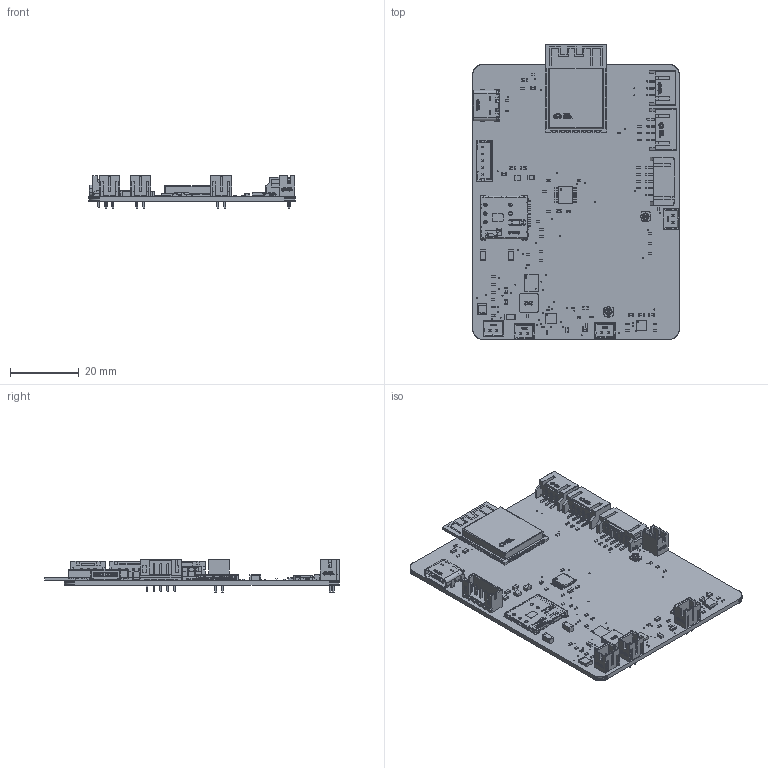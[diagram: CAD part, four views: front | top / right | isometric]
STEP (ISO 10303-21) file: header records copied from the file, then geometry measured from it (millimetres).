
FILE_DESCRIPTION(/* description */ (''),/* implementation_level */ '2;1');
FILE_NAME(/* name */ 'C28_R2_REF_PCB_fb5acde7_SHA30578154.step',/* time_stamp */ '2026-09-15T15:46:44-07:00',/* author */ (''),/* organization */ (''),/* preprocessor_version */ 'ST-DEVELOPER v20.1',/* originating_system */ 'Autodesk Translation Framework v15.8.0.0',/* authorisation */ '');
FILE_SCHEMA (('AUTOMOTIVE_DESIGN { 1 0 10303 214 3 1 1 }'));
Products named in the file (54): 2026-09-15-15-46-40-457; 2026-09-15-15-46-40-471; 2026-09-15-15-46-40-457_1; 2026-09-15-15-46-40-457_2; 2026-09-15-15-46-40-464; 2026-09-15-15-46-40-463; 2026-09-15-15-46-40-457_3; 2026-09-15-15-46-40-457_4; 2026-09-15-15-46-40-458; 2026-09-15-15-46-40-457_5; 2026-09-15-15-46-40-458_1; 2026-09-15-15-46-40-458_2; 2026-09-15-15-46-40-469; 2026-09-15-15-46-40-469_1; 2026-09-15-15-46-40-458_3; 2026-09-15-15-46-40-464_1; 2026-09-15-15-46-40-469_2; 2026-09-15-15-46-40-469_3; 2026-09-15-15-46-40-463_1; 2026-09-15-15-46-40-463_2; 2026-09-15-15-46-40-463_3; 2026-09-15-15-46-40-463_4; 2026-09-15-15-46-40-469_4; 2026-09-15-15-46-40-469_5; 2026-09-15-15-46-40-463_5; 2026-09-15-15-46-40-463_6; 2026-09-15-15-46-40-463_7; 2026-09-15-15-46-40-469_6; 2026-09-15-15-46-40-469_7; 2026-09-15-15-46-40-463_8; 2026-09-15-15-46-40-463_9; 2026-09-15-15-46-40-463_10; 2026-09-15-15-46-40-463_11; 2026-09-15-15-46-40-463_12; 2026-09-15-15-46-40-463_13; 2026-09-15-15-46-40-470; 2026-09-15-15-46-40-469_8; 2026-09-15-15-46-40-470_1; 2026-09-15-15-46-40-470_2; 2026-09-15-15-46-40-471_1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
Assembly tree (115 placements, depth 5):
  2026-09-15-15-46-40-457
    2026-09-15-15-46-40-471
      2026-09-15-15-46-40-457_12  x11
        2026-09-15-15-46-40-457_13
      2026-09-15-15-46-40-457_10  x14
        2026-09-15-15-46-40-457_11
      2026-09-15-15-46-40-457_14  x34
        2026-09-15-15-46-40-457_15
      2026-09-15-15-46-40-457_1
        2026-09-15-15-46-40-457_2
      2026-09-15-15-46-40-464
        2026-09-15-15-46-40-463
      2026-09-15-15-46-40-457_8  x4
        2026-09-15-15-46-40-457_9
      2026-09-15-15-46-40-457_3
        2026-09-15-15-46-40-457_4
      2026-09-15-15-46-40-458
        2026-09-15-15-46-40-457_5
      2026-09-15-15-46-40-458_1
        2026-09-15-15-46-40-458_2
      2026-09-15-15-46-40-457_6  x2
        2026-09-15-15-46-40-457_7
      2026-09-15-15-46-40-469
        2026-09-15-15-46-40-469_1
          2026-09-15-15-46-40-458_3
          2026-09-15-15-46-40-464_1
      2026-09-15-15-46-40-463_14  x3
        2026-09-15-15-46-40-463_15
      2026-09-15-15-46-40-469_2
        2026-09-15-15-46-40-469_3
      2026-09-15-15-46-40-463_1
        2026-09-15-15-46-40-463_2
          2026-09-15-15-46-40-463_3
          2026-09-15-15-46-40-463_4
      2026-09-15-15-46-40-469_4
        2026-09-15-15-46-40-469_5
      2026-09-15-15-46-40-463_5
        2026-09-15-15-46-40-463_6
          2026-09-15-15-46-40-463_7
      2026-09-15-15-46-40-469_6
        2026-09-15-15-46-40-469_7
      2026-09-15-15-46-40-463_8
        2026-09-15-15-46-40-463_9
          2026-09-15-15-46-40-463_10
          2026-09-15-15-46-40-463_11
          2026-09-15-15-46-40-463_12
          2026-09-15-15-46-40-463_13
      2026-09-15-15-46-40-470
        2026-09-15-15-46-40-469_8
      2026-09-15-15-46-40-470_1
        2026-09-15-15-46-40-470_2
      2026-09-15-15-46-40-471_1
        2026-09-15-15-46-40-470_3
      2026-09-15-15-46-40-471_2
Bounding box: 60 x 85.75 x 9.5 mm (x, y, z)
Volume: 8711.8 mm3; surface area: 17615.5 mm2
Topology: 306 solids, 1671 shells, 11781 faces, 36229 edges, 26337 vertices
Faces by surface type: plane 8052, cylinder 2152, bspline 1479, torus 50, sphere 26, cone 22
Full cylindrical faces by diameter (mm): 0.157 x4, 0.3 x63, 0.375 x1, 0.4 x2, 0.45 x2, 0.5 x5, 0.6 x4, 0.75 x4, 0.813 x5, 0.9 x8, 1 x16, 1.5 x6, 1.7 x2, 1.9 x2, 2 x4
Entity records: 363456 total; most frequent: CARTESIAN_POINT 105616, ORIENTED_EDGE 48528, DIRECTION 47508, EDGE_CURVE 28668, LINE 21518, VECTOR 21518, VERTEX_POINT 21377, AXIS2_PLACEMENT_3D 12995
